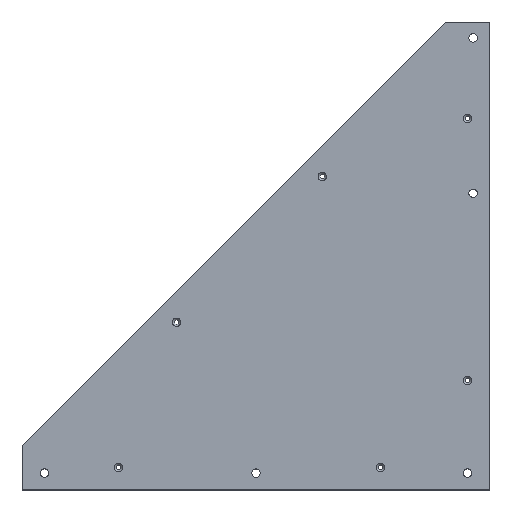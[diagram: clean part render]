
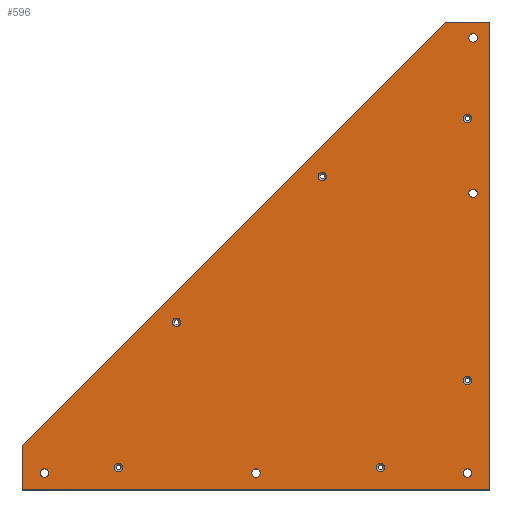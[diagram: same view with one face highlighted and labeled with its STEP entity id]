
A CAD part, top view. The second image highlights one B-rep face of the part: STEP entity #596.
In plain terms, the highlighted planar face has unit normal (0, 0, 1).
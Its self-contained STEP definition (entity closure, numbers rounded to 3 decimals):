
#5 = AXIS2_PLACEMENT_3D ( 'NONE', #215, #276, #387 ) ;
#16 = DIRECTION ( 'NONE',  ( -1., 0., 0. ) ) ;
#18 = VECTOR ( 'NONE', #740, 1000. ) ;
#22 = ORIENTED_EDGE ( 'NONE', *, *, #328, .T. ) ;
#26 = VERTEX_POINT ( 'NONE', #96 ) ;
#44 = AXIS2_PLACEMENT_3D ( 'NONE', #258, #196, #677 ) ;
#45 = FACE_BOUND ( 'NONE', #287, .T. ) ;
#51 = CARTESIAN_POINT ( 'NONE',  ( 98.471, 24., 6. ) ) ;
#57 = VERTEX_POINT ( 'NONE', #457 ) ;
#59 = CARTESIAN_POINT ( 'NONE',  ( 165.189, 179.248, 6. ) ) ;
#64 = EDGE_CURVE ( 'NONE', #26, #26, #670, .T. ) ;
#68 = VECTOR ( 'NONE', #720, 1000. ) ;
#69 = AXIS2_PLACEMENT_3D ( 'NONE', #446, #631, #507 ) ;
#75 = EDGE_CURVE ( 'NONE', #453, #453, #282, .T. ) ;
#83 = EDGE_LOOP ( 'NONE', ( #165 ) ) ;
#88 = CARTESIAN_POINT ( 'NONE',  ( 482., 317., 6. ) ) ;
#94 = CIRCLE ( 'NONE', #488, 4.5 ) ;
#96 = CARTESIAN_POINT ( 'NONE',  ( 471.5, 117.029, 6. ) ) ;
#104 = FACE_BOUND ( 'NONE', #227, .T. ) ;
#105 = DIRECTION ( 'NONE',  ( 0., 0., -1. ) ) ;
#108 = FACE_BOUND ( 'NONE', #294, .T. ) ;
#111 = VERTEX_POINT ( 'NONE', #513 ) ;
#112 = ORIENTED_EDGE ( 'NONE', *, *, #463, .T. ) ;
#113 = CARTESIAN_POINT ( 'NONE',  ( 486.5, 317., 6. ) ) ;
#118 = EDGE_CURVE ( 'NONE', #283, #283, #332, .T. ) ;
#120 = CARTESIAN_POINT ( 'NONE',  ( 102.971, 24., 6. ) ) ;
#126 = CARTESIAN_POINT ( 'NONE',  ( 476., 397.029, 6. ) ) ;
#130 = EDGE_LOOP ( 'NONE', ( #753, #717, #178, #654, #137 ) ) ;
#134 = ORIENTED_EDGE ( 'NONE', *, *, #64, .T. ) ;
#137 = ORIENTED_EDGE ( 'NONE', *, *, #289, .T. ) ;
#138 = CARTESIAN_POINT ( 'NONE',  ( 0., 48., 6. ) ) ;
#143 = AXIS2_PLACEMENT_3D ( 'NONE', #613, #684, #285 ) ;
#156 = LINE ( 'NONE', #487, #632 ) ;
#158 = FACE_BOUND ( 'NONE', #249, .T. ) ;
#159 = DIRECTION ( 'NONE',  ( 1., 0., 0. ) ) ;
#162 = EDGE_CURVE ( 'NONE', #57, #57, #696, .T. ) ;
#163 = FACE_BOUND ( 'NONE', #725, .T. ) ;
#165 = ORIENTED_EDGE ( 'NONE', *, *, #736, .F. ) ;
#176 = DIRECTION ( 'NONE',  ( -1., 0., 0. ) ) ;
#178 = ORIENTED_EDGE ( 'NONE', *, *, #204, .T. ) ;
#180 = VERTEX_POINT ( 'NONE', #619 ) ;
#186 = AXIS2_PLACEMENT_3D ( 'NONE', #572, #263, #176 ) ;
#190 = CARTESIAN_POINT ( 'NONE',  ( 500., 500., 6. ) ) ;
#192 = VERTEX_POINT ( 'NONE', #752 ) ;
#193 = CARTESIAN_POINT ( 'NONE',  ( 382.971, 24., 6. ) ) ;
#196 = DIRECTION ( 'NONE',  ( 0., 0., -1. ) ) ;
#200 = DIRECTION ( 'NONE',  ( 1., 0., 0. ) ) ;
#204 = EDGE_CURVE ( 'NONE', #344, #442, #556, .T. ) ;
#210 = EDGE_LOOP ( 'NONE', ( #602 ) ) ;
#215 = CARTESIAN_POINT ( 'NONE',  ( 24., 18., 6. ) ) ;
#227 = EDGE_LOOP ( 'NONE', ( #518 ) ) ;
#228 = DIRECTION ( 'NONE',  ( 0., 0., 1. ) ) ;
#242 = CIRCLE ( 'NONE', #477, 4.5 ) ;
#249 = EDGE_LOOP ( 'NONE', ( #514 ) ) ;
#252 = AXIS2_PLACEMENT_3D ( 'NONE', #126, #586, #532 ) ;
#257 = EDGE_CURVE ( 'NONE', #400, #400, #520, .T. ) ;
#258 = CARTESIAN_POINT ( 'NONE',  ( 320.752, 334.811, 6. ) ) ;
#263 = DIRECTION ( 'NONE',  ( 0., 0., -1. ) ) ;
#265 = ORIENTED_EDGE ( 'NONE', *, *, #75, .F. ) ;
#267 = DIRECTION ( 'NONE',  ( -1., 0., 0. ) ) ;
#268 = CIRCLE ( 'NONE', #5, 4.5 ) ;
#269 = DIRECTION ( 'NONE',  ( 1., 0., 0. ) ) ;
#275 = VERTEX_POINT ( 'NONE', #113 ) ;
#276 = DIRECTION ( 'NONE',  ( 0., 0., 1. ) ) ;
#282 = CIRCLE ( 'NONE', #143, 4.5 ) ;
#283 = VERTEX_POINT ( 'NONE', #643 ) ;
#285 = DIRECTION ( 'NONE',  ( 1., 0., 0. ) ) ;
#287 = EDGE_LOOP ( 'NONE', ( #574 ) ) ;
#289 = EDGE_CURVE ( 'NONE', #180, #582, #657, .T. ) ;
#292 = CARTESIAN_POINT ( 'NONE',  ( 0., 0., 6. ) ) ;
#294 = EDGE_LOOP ( 'NONE', ( #472 ) ) ;
#302 = EDGE_CURVE ( 'NONE', #192, #344, #542, .T. ) ;
#313 = DIRECTION ( 'NONE',  ( 0., 0., -1. ) ) ;
#314 = AXIS2_PLACEMENT_3D ( 'NONE', #59, #105, #495 ) ;
#323 = EDGE_LOOP ( 'NONE', ( #265 ) ) ;
#325 = CARTESIAN_POINT ( 'NONE',  ( 452., 500., 6. ) ) ;
#327 = FACE_BOUND ( 'NONE', #484, .T. ) ;
#328 = EDGE_CURVE ( 'NONE', #338, #338, #94, .T. ) ;
#331 = CARTESIAN_POINT ( 'NONE',  ( 480.5, 18., 6. ) ) ;
#332 = CIRCLE ( 'NONE', #314, 4.5 ) ;
#333 = FACE_BOUND ( 'NONE', #210, .T. ) ;
#334 = CARTESIAN_POINT ( 'NONE',  ( 250., 18., 6. ) ) ;
#338 = VERTEX_POINT ( 'NONE', #51 ) ;
#344 = VERTEX_POINT ( 'NONE', #190 ) ;
#357 = DIRECTION ( 'NONE',  ( 0., 1., 0. ) ) ;
#366 = AXIS2_PLACEMENT_3D ( 'NONE', #334, #228, #159 ) ;
#373 = DIRECTION ( 'NONE',  ( 0., 0., 1. ) ) ;
#387 = DIRECTION ( 'NONE',  ( 1., 0., 0. ) ) ;
#390 = FACE_OUTER_BOUND ( 'NONE', #130, .T. ) ;
#398 = CARTESIAN_POINT ( 'NONE',  ( 471.5, 397.029, 6. ) ) ;
#400 = VERTEX_POINT ( 'NONE', #398 ) ;
#402 = VERTEX_POINT ( 'NONE', #525 ) ;
#415 = VECTOR ( 'NONE', #357, 1000. ) ;
#429 = CARTESIAN_POINT ( 'NONE',  ( 482., 483., 6. ) ) ;
#435 = DIRECTION ( 'NONE',  ( 0., 0., 1. ) ) ;
#442 = VERTEX_POINT ( 'NONE', #664 ) ;
#446 = CARTESIAN_POINT ( 'NONE',  ( 0., 0., 6. ) ) ;
#450 = EDGE_CURVE ( 'NONE', #275, #275, #667, .T. ) ;
#453 = VERTEX_POINT ( 'NONE', #331 ) ;
#457 = CARTESIAN_POINT ( 'NONE',  ( 254.5, 18., 6. ) ) ;
#463 = EDGE_CURVE ( 'NONE', #581, #581, #695, .T. ) ;
#470 = CARTESIAN_POINT ( 'NONE',  ( 500., 500., 6. ) ) ;
#472 = ORIENTED_EDGE ( 'NONE', *, *, #118, .T. ) ;
#477 = AXIS2_PLACEMENT_3D ( 'NONE', #193, #313, #563 ) ;
#483 = EDGE_CURVE ( 'NONE', #111, #111, #242, .T. ) ;
#484 = EDGE_LOOP ( 'NONE', ( #134 ) ) ;
#487 = CARTESIAN_POINT ( 'NONE',  ( 500., 0., 6. ) ) ;
#488 = AXIS2_PLACEMENT_3D ( 'NONE', #120, #714, #16 ) ;
#495 = DIRECTION ( 'NONE',  ( -1., 0., 0. ) ) ;
#503 = AXIS2_PLACEMENT_3D ( 'NONE', #88, #373, #200 ) ;
#507 = DIRECTION ( 'NONE',  ( -1., 0., 0. ) ) ;
#510 = VERTEX_POINT ( 'NONE', #697 ) ;
#512 = FACE_BOUND ( 'NONE', #681, .T. ) ;
#513 = CARTESIAN_POINT ( 'NONE',  ( 378.471, 24., 6. ) ) ;
#514 = ORIENTED_EDGE ( 'NONE', *, *, #162, .F. ) ;
#518 = ORIENTED_EDGE ( 'NONE', *, *, #257, .T. ) ;
#520 = CIRCLE ( 'NONE', #252, 4.5 ) ;
#521 = CARTESIAN_POINT ( 'NONE',  ( 316.252, 334.811, 6. ) ) ;
#524 = EDGE_CURVE ( 'NONE', #442, #180, #673, .T. ) ;
#525 = CARTESIAN_POINT ( 'NONE',  ( 486.5, 483., 6. ) ) ;
#529 = EDGE_LOOP ( 'NONE', ( #22 ) ) ;
#532 = DIRECTION ( 'NONE',  ( -1., 0., 0. ) ) ;
#542 = LINE ( 'NONE', #470, #415 ) ;
#550 = DIRECTION ( 'NONE',  ( 1., 0., 0. ) ) ;
#556 = LINE ( 'NONE', #325, #592 ) ;
#563 = DIRECTION ( 'NONE',  ( -1., 0., 0. ) ) ;
#568 = CIRCLE ( 'NONE', #716, 4.5 ) ;
#571 = FACE_BOUND ( 'NONE', #83, .T. ) ;
#572 = CARTESIAN_POINT ( 'NONE',  ( 476., 117.029, 6. ) ) ;
#574 = ORIENTED_EDGE ( 'NONE', *, *, #587, .F. ) ;
#581 = VERTEX_POINT ( 'NONE', #521 ) ;
#582 = VERTEX_POINT ( 'NONE', #608 ) ;
#586 = DIRECTION ( 'NONE',  ( 0., 0., -1. ) ) ;
#587 = EDGE_CURVE ( 'NONE', #510, #510, #268, .T. ) ;
#592 = VECTOR ( 'NONE', #267, 1000. ) ;
#596 = ADVANCED_FACE ( 'NONE', ( #108, #686, #512, #327, #104, #163, #45, #158, #751, #333, #571, #390 ), #745, .F. ) ;
#602 = ORIENTED_EDGE ( 'NONE', *, *, #450, .F. ) ;
#608 = CARTESIAN_POINT ( 'NONE',  ( 0., 0., 6. ) ) ;
#613 = CARTESIAN_POINT ( 'NONE',  ( 476., 18., 6. ) ) ;
#619 = CARTESIAN_POINT ( 'NONE',  ( 0., 48., 6. ) ) ;
#626 = EDGE_CURVE ( 'NONE', #582, #192, #156, .T. ) ;
#631 = DIRECTION ( 'NONE',  ( 0., 0., -1. ) ) ;
#632 = VECTOR ( 'NONE', #550, 1000. ) ;
#638 = ORIENTED_EDGE ( 'NONE', *, *, #483, .T. ) ;
#643 = CARTESIAN_POINT ( 'NONE',  ( 160.689, 179.248, 6. ) ) ;
#654 = ORIENTED_EDGE ( 'NONE', *, *, #524, .T. ) ;
#657 = LINE ( 'NONE', #292, #68 ) ;
#664 = CARTESIAN_POINT ( 'NONE',  ( 452., 500., 6. ) ) ;
#667 = CIRCLE ( 'NONE', #503, 4.5 ) ;
#670 = CIRCLE ( 'NONE', #186, 4.5 ) ;
#673 = LINE ( 'NONE', #138, #18 ) ;
#677 = DIRECTION ( 'NONE',  ( -1., 0., 0. ) ) ;
#681 = EDGE_LOOP ( 'NONE', ( #638 ) ) ;
#684 = DIRECTION ( 'NONE',  ( 0., 0., 1. ) ) ;
#686 = FACE_BOUND ( 'NONE', #529, .T. ) ;
#695 = CIRCLE ( 'NONE', #44, 4.5 ) ;
#696 = CIRCLE ( 'NONE', #366, 4.5 ) ;
#697 = CARTESIAN_POINT ( 'NONE',  ( 28.5, 18., 6. ) ) ;
#714 = DIRECTION ( 'NONE',  ( 0., 0., -1. ) ) ;
#716 = AXIS2_PLACEMENT_3D ( 'NONE', #429, #435, #269 ) ;
#717 = ORIENTED_EDGE ( 'NONE', *, *, #302, .T. ) ;
#720 = DIRECTION ( 'NONE',  ( 0., -1., 0. ) ) ;
#725 = EDGE_LOOP ( 'NONE', ( #112 ) ) ;
#736 = EDGE_CURVE ( 'NONE', #402, #402, #568, .T. ) ;
#740 = DIRECTION ( 'NONE',  ( -0.707, -0.707, 0. ) ) ;
#745 = PLANE ( 'NONE',  #69 ) ;
#751 = FACE_BOUND ( 'NONE', #323, .T. ) ;
#752 = CARTESIAN_POINT ( 'NONE',  ( 500., 0., 6. ) ) ;
#753 = ORIENTED_EDGE ( 'NONE', *, *, #626, .T. ) ;
